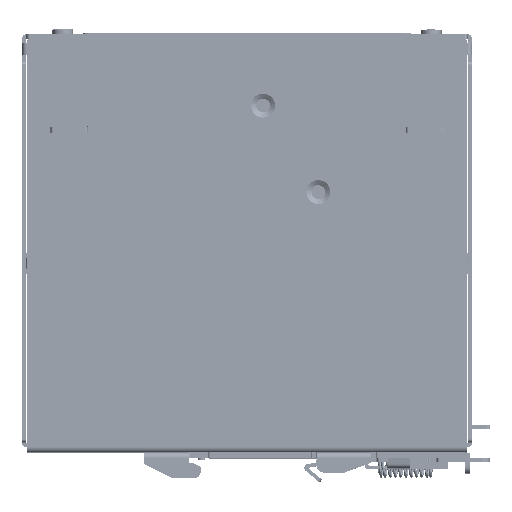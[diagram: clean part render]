
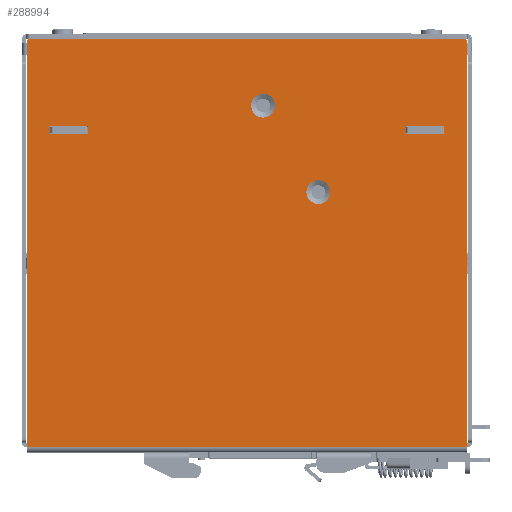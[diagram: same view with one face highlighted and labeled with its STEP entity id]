
A CAD part, top view. The second image highlights one B-rep face of the part: STEP entity #288994.
In plain terms, the highlighted planar face has unit normal (0, 0, 1) as drawn and (-1, 0, 0) by its records, which use the part's own axes.
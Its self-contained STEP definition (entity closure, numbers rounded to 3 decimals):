
#288294=CARTESIAN_POINT('',(-19.,-59.7,-1.));
#288295=DIRECTION('',(-1.,0.,0.));
#288296=DIRECTION('',(0.,-1.,0.));
#288297=AXIS2_PLACEMENT_3D('',#288294,#288295,#288296);
#288299=DIRECTION('',(0.,0.,-1.));
#288300=VECTOR('',#288299,111.6);
#288301=CARTESIAN_POINT('',(-19.,-60.7,-1.));
#288302=LINE('',#288301,#288300);
#288303=DIRECTION('',(0.,0.,1.));
#288304=VECTOR('',#288303,111.6);
#288305=CARTESIAN_POINT('',(-19.,60.7,-112.6));
#288306=LINE('',#288305,#288304);
#288307=CARTESIAN_POINT('',(-19.,59.7,-1.));
#288308=DIRECTION('',(-1.,0.,0.));
#288309=DIRECTION('',(0.,0.,1.));
#288310=AXIS2_PLACEMENT_3D('',#288307,#288308,#288309);
#288312=DIRECTION('',(0.,-1.,0.));
#288313=VECTOR('',#288312,119.4);
#288314=CARTESIAN_POINT('',(-19.,59.7,0.));
#288315=LINE('',#288314,#288313);
#288316=DIRECTION('',(0.,0.,-1.));
#288317=VECTOR('',#288316,2.2);
#288318=CARTESIAN_POINT('',(-19.,43.8,-24.2));
#288319=LINE('',#288318,#288317);
#288320=DIRECTION('',(0.,-1.,0.));
#288321=VECTOR('',#288320,10.4);
#288322=CARTESIAN_POINT('',(-19.,54.2,-24.2));
#288323=LINE('',#288322,#288321);
#288324=DIRECTION('',(0.,0.,1.));
#288325=VECTOR('',#288324,2.2);
#288326=CARTESIAN_POINT('',(-19.,54.2,-26.4));
#288327=LINE('',#288326,#288325);
#288328=DIRECTION('',(0.,1.,0.));
#288329=VECTOR('',#288328,10.4);
#288330=CARTESIAN_POINT('',(-19.,43.8,-26.4));
#288331=LINE('',#288330,#288329);
#288332=DIRECTION('',(0.,-1.,0.));
#288333=VECTOR('',#288332,10.4);
#288334=CARTESIAN_POINT('',(-19.,-43.8,-24.2));
#288335=LINE('',#288334,#288333);
#288336=DIRECTION('',(0.,0.,1.));
#288337=VECTOR('',#288336,2.2);
#288338=CARTESIAN_POINT('',(-19.,-43.8,-26.4));
#288339=LINE('',#288338,#288337);
#288340=DIRECTION('',(0.,1.,0.));
#288341=VECTOR('',#288340,10.4);
#288342=CARTESIAN_POINT('',(-19.,-54.2,-26.4));
#288343=LINE('',#288342,#288341);
#288344=DIRECTION('',(0.,0.,-1.));
#288345=VECTOR('',#288344,2.2);
#288346=CARTESIAN_POINT('',(-19.,-54.2,-24.2));
#288347=LINE('',#288346,#288345);
#288348=CARTESIAN_POINT('',(-19.,-4.446,-18.488));
#288349=DIRECTION('',(1.,0.,0.));
#288350=DIRECTION('',(0.,0.,1.));
#288351=AXIS2_PLACEMENT_3D('',#288348,#288349,#288350);
#288353=CARTESIAN_POINT('',(-19.,-4.446,-18.488));
#288354=DIRECTION('',(1.,0.,0.));
#288355=DIRECTION('',(0.,0.,-1.));
#288356=AXIS2_PLACEMENT_3D('',#288353,#288354,#288355);
#288358=CARTESIAN_POINT('',(-19.,-19.697,-42.317));
#288359=DIRECTION('',(1.,0.,0.));
#288360=DIRECTION('',(0.,0.,1.));
#288361=AXIS2_PLACEMENT_3D('',#288358,#288359,#288360);
#288363=CARTESIAN_POINT('',(-19.,-19.697,-42.317));
#288364=DIRECTION('',(1.,0.,0.));
#288365=DIRECTION('',(0.,0.,-1.));
#288366=AXIS2_PLACEMENT_3D('',#288363,#288364,#288365);
#288397=DIRECTION('',(0.,1.,0.));
#288398=VECTOR('',#288397,121.4);
#288399=CARTESIAN_POINT('',(-19.,-60.7,-112.6));
#288400=LINE('',#288399,#288398);
#288571=CARTESIAN_POINT('',(-19.,60.7,-112.6));
#288572=VERTEX_POINT('',#288571);
#288573=CARTESIAN_POINT('',(-19.,-60.7,-112.6));
#288574=VERTEX_POINT('',#288573);
#288579=CARTESIAN_POINT('',(-19.,-60.7,-1.));
#288580=CARTESIAN_POINT('',(-19.,-59.7,0.));
#288581=VERTEX_POINT('',#288579);
#288582=VERTEX_POINT('',#288580);
#288587=CARTESIAN_POINT('',(-19.,59.7,0.));
#288588=CARTESIAN_POINT('',(-19.,60.7,-1.));
#288589=VERTEX_POINT('',#288587);
#288590=VERTEX_POINT('',#288588);
#288603=CARTESIAN_POINT('',(-19.,43.8,-24.2));
#288604=CARTESIAN_POINT('',(-19.,43.8,-26.4));
#288605=VERTEX_POINT('',#288603);
#288606=VERTEX_POINT('',#288604);
#288607=CARTESIAN_POINT('',(-19.,54.2,-26.4));
#288608=VERTEX_POINT('',#288607);
#288609=CARTESIAN_POINT('',(-19.,54.2,-24.2));
#288610=VERTEX_POINT('',#288609);
#288611=CARTESIAN_POINT('',(-19.,-43.8,-24.2));
#288612=CARTESIAN_POINT('',(-19.,-54.2,-24.2));
#288613=VERTEX_POINT('',#288611);
#288614=VERTEX_POINT('',#288612);
#288615=CARTESIAN_POINT('',(-19.,-54.2,-26.4));
#288616=VERTEX_POINT('',#288615);
#288617=CARTESIAN_POINT('',(-19.,-43.8,-26.4));
#288618=VERTEX_POINT('',#288617);
#288691=CARTESIAN_POINT('',(-19.,-4.446,-15.188));
#288692=CARTESIAN_POINT('',(-19.,-4.446,-21.788));
#288693=VERTEX_POINT('',#288691);
#288694=VERTEX_POINT('',#288692);
#288699=CARTESIAN_POINT('',(-19.,-19.697,-39.017));
#288700=CARTESIAN_POINT('',(-19.,-19.697,-45.617));
#288701=VERTEX_POINT('',#288699);
#288702=VERTEX_POINT('',#288700);
#288944=CARTESIAN_POINT('',(-19.,0.,0.));
#288945=DIRECTION('',(1.,0.,0.));
#288946=DIRECTION('',(0.,0.,-1.));
#288947=AXIS2_PLACEMENT_3D('',#288944,#288945,#288946);
#288948=PLANE('',#288947);
#288950=ORIENTED_EDGE('',*,*,#288949,.F.);
#288952=ORIENTED_EDGE('',*,*,#288951,.T.);
#288954=ORIENTED_EDGE('',*,*,#288953,.T.);
#288956=ORIENTED_EDGE('',*,*,#288955,.T.);
#288958=ORIENTED_EDGE('',*,*,#288957,.F.);
#288960=ORIENTED_EDGE('',*,*,#288959,.T.);
#288961=EDGE_LOOP('',(#288950,#288952,#288954,#288956,#288958,#288960));
#288962=FACE_OUTER_BOUND('',#288961,.F.);
#288964=ORIENTED_EDGE('',*,*,#288963,.F.);
#288966=ORIENTED_EDGE('',*,*,#288965,.F.);
#288968=ORIENTED_EDGE('',*,*,#288967,.F.);
#288970=ORIENTED_EDGE('',*,*,#288969,.F.);
#288971=EDGE_LOOP('',(#288964,#288966,#288968,#288970));
#288972=FACE_BOUND('',#288971,.F.);
#288974=ORIENTED_EDGE('',*,*,#288973,.F.);
#288976=ORIENTED_EDGE('',*,*,#288975,.F.);
#288978=ORIENTED_EDGE('',*,*,#288977,.F.);
#288980=ORIENTED_EDGE('',*,*,#288979,.F.);
#288981=EDGE_LOOP('',(#288974,#288976,#288978,#288980));
#288982=FACE_BOUND('',#288981,.F.);
#288984=ORIENTED_EDGE('',*,*,#288983,.F.);
#288986=ORIENTED_EDGE('',*,*,#288985,.F.);
#288987=EDGE_LOOP('',(#288984,#288986));
#288988=FACE_BOUND('',#288987,.F.);
#288989=ORIENTED_EDGE('',*,*,#288934,.F.);
#288991=ORIENTED_EDGE('',*,*,#288990,.F.);
#288992=EDGE_LOOP('',(#288989,#288991));
#288993=FACE_BOUND('',#288992,.F.);
#288298=CIRCLE('',#288297,1.);
#288311=CIRCLE('',#288310,1.);
#288352=CIRCLE('',#288351,3.3);
#288357=CIRCLE('',#288356,3.3);
#288362=CIRCLE('',#288361,3.3);
#288367=CIRCLE('',#288366,3.3);
#288934=EDGE_CURVE('',#288701,#288702,#288362,.T.);
#288949=EDGE_CURVE('',#288581,#288582,#288298,.T.);
#288951=EDGE_CURVE('',#288581,#288574,#288302,.T.);
#288953=EDGE_CURVE('',#288574,#288572,#288400,.T.);
#288955=EDGE_CURVE('',#288572,#288590,#288306,.T.);
#288957=EDGE_CURVE('',#288589,#288590,#288311,.T.);
#288959=EDGE_CURVE('',#288589,#288582,#288315,.T.);
#288963=EDGE_CURVE('',#288605,#288606,#288319,.T.);
#288965=EDGE_CURVE('',#288610,#288605,#288323,.T.);
#288967=EDGE_CURVE('',#288608,#288610,#288327,.T.);
#288969=EDGE_CURVE('',#288606,#288608,#288331,.T.);
#288973=EDGE_CURVE('',#288613,#288614,#288335,.T.);
#288975=EDGE_CURVE('',#288618,#288613,#288339,.T.);
#288977=EDGE_CURVE('',#288616,#288618,#288343,.T.);
#288979=EDGE_CURVE('',#288614,#288616,#288347,.T.);
#288983=EDGE_CURVE('',#288693,#288694,#288352,.T.);
#288985=EDGE_CURVE('',#288694,#288693,#288357,.T.);
#288990=EDGE_CURVE('',#288702,#288701,#288367,.T.);
#288994=ADVANCED_FACE('',(#288962,#288972,#288982,#288988,#288993),#288948,.F.);
